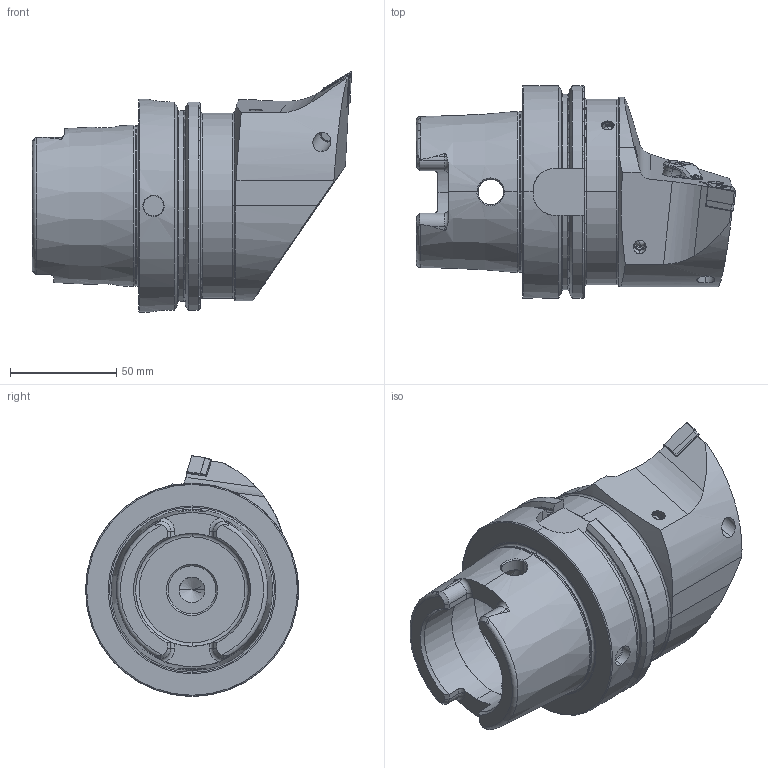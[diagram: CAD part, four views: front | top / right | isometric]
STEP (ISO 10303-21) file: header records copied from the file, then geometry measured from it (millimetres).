
FILE_DESCRIPTION (( 'STEP AP214' ), '1' );
FILE_NAME ('HA0.PDF.LUA.100-HP.STEP', '2024-08-20T11:56:01', ( '' ), ( '' ), 'SwSTEP 2.0', 'SolidWorks 2022', '' );
FILE_SCHEMA (( 'AUTOMOTIVE_DESIGN' ));
Length unit declared in the file: millimetre
Products named in the file (14): CHP-PCX.000.022_Düse; KVT_MB_600_060; WCD-ER1.101.000; DIN 3771 - 6.5x1.5; ISO 8752 2x8; HA0.PDF.LUA.100-HP; CHP-PCX.000.022_B; DNMG150604; WDF-ER3.101.000_A; HA0-PDF.LUA.100-HP_A_Fertigbearbeitung; DIN 7991 - M5x18; WCD-ER4.101.017_A; WDF-ER2.101.003_A; DIN 3771 - 13x1
Assembly tree (14 placements, depth 3):
  HA0.PDF.LUA.100-HP
    HA0-PDF.LUA.100-HP_A_Fertigbearbeitung
    KVT_MB_600_060  x2
    DNMG150604
    WDF-ER2.101.003_A
    WCD-ER4.101.017_A
    WDF-ER3.101.000_A
    WCD-ER1.101.000
    ISO 8752 2x8
    CHP-PCX.000.022_Düse
      CHP-PCX.000.022_B
      DIN 3771 - 13x1
      DIN 3771 - 6.5x1.5
      DIN 7991 - M5x18
Bounding box: 149.9 x 100 x 113 mm (x, y, z)
Volume: 529578.3 mm3; surface area: 75311.2 mm2
Topology: 15 solids, 15 shells, 607 faces, 1518 edges, 918 vertices
Faces by surface type: cylinder 174, cone 152, plane 152, torus 71, bspline 54, sphere 4
Entity records: 23423 total; most frequent: CARTESIAN_POINT 8504, ORIENTED_EDGE 2852, DIRECTION 2618, EDGE_CURVE 1426, AXIS2_PLACEMENT_3D 1039, VERTEX_POINT 879, EDGE_LOOP 605, FACE_OUTER_BOUND 575
